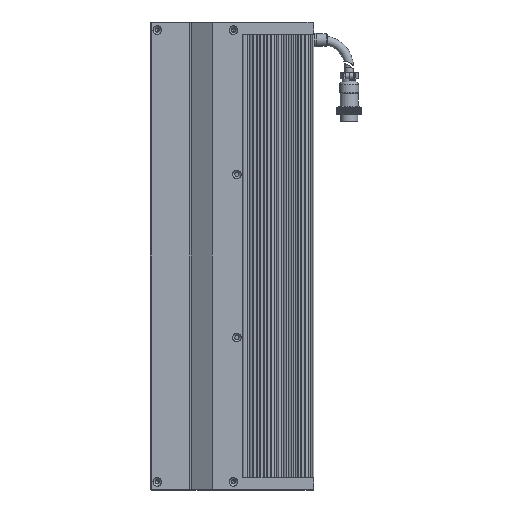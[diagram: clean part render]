
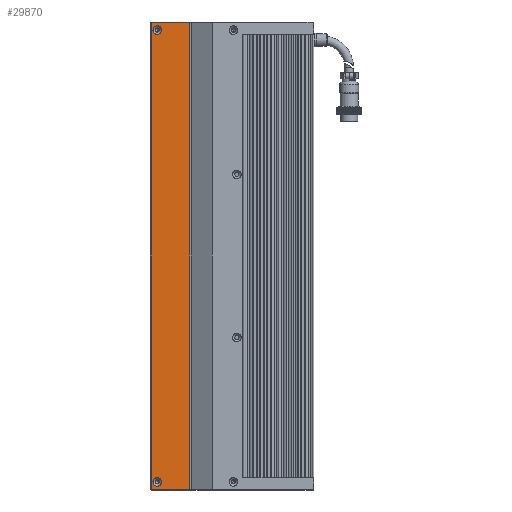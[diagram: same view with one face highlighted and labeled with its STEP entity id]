
A CAD part, left-side view. The second image highlights one B-rep face of the part: STEP entity #29870.
In plain terms, the highlighted planar face has unit normal (-1, 0, 0).
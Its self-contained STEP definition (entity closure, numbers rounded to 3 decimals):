
#281 = ORIENTED_EDGE ( 'NONE', *, *, #96069, .F. ) ;
#371 = AXIS2_PLACEMENT_3D ( 'NONE', #30398, #20269, #49448 ) ;
#2692 = DIRECTION ( 'NONE',  ( 0., 0., 1. ) ) ;
#3423 = EDGE_CURVE ( 'NONE', #51012, #51012, #91070, .T. ) ;
#3790 = VECTOR ( 'NONE', #110352, 1000. ) ;
#5175 = DIRECTION ( 'NONE',  ( 1., 0., 0. ) ) ;
#6665 = CARTESIAN_POINT ( 'NONE',  ( -15.462, 21.439, 463. ) ) ;
#6941 = LINE ( 'NONE', #79916, #41817 ) ;
#7898 = EDGE_CURVE ( 'NONE', #40399, #40399, #39347, .T. ) ;
#8772 = FACE_BOUND ( 'NONE', #119551, .T. ) ;
#10105 = AXIS2_PLACEMENT_3D ( 'NONE', #44052, #5175, #109949 ) ;
#10436 = ORIENTED_EDGE ( 'NONE', *, *, #26437, .F. ) ;
#13795 = CARTESIAN_POINT ( 'NONE',  ( -15.462, -6.987, 461.5 ) ) ;
#14948 = LINE ( 'NONE', #51786, #82863 ) ;
#20269 = DIRECTION ( 'NONE',  ( -1., 0., 0. ) ) ;
#20612 = VERTEX_POINT ( 'NONE', #91520 ) ;
#21435 = ORIENTED_EDGE ( 'NONE', *, *, #44242, .F. ) ;
#21868 = CARTESIAN_POINT ( 'NONE',  ( -15.462, -6.987, 463. ) ) ;
#24652 = VERTEX_POINT ( 'NONE', #78868 ) ;
#26437 = EDGE_CURVE ( 'NONE', #20612, #28474, #14948, .T. ) ;
#27771 = ORIENTED_EDGE ( 'NONE', *, *, #7898, .F. ) ;
#28474 = VERTEX_POINT ( 'NONE', #6665 ) ;
#29870 = ADVANCED_FACE ( 'NONE', ( #108550, #8772, #67731 ), #43635, .F. ) ;
#30398 = CARTESIAN_POINT ( 'NONE',  ( -15.462, 16.939, 457.5 ) ) ;
#32244 = ORIENTED_EDGE ( 'NONE', *, *, #3423, .F. ) ;
#39347 = CIRCLE ( 'NONE', #105823, 3.15 ) ;
#40399 = VERTEX_POINT ( 'NONE', #104734 ) ;
#41817 = VECTOR ( 'NONE', #50456, 1000. ) ;
#43635 = PLANE ( 'NONE',  #10105 ) ;
#43851 = EDGE_LOOP ( 'NONE', ( #10436, #100117, #21435, #281 ) ) ;
#44052 = CARTESIAN_POINT ( 'NONE',  ( -15.462, -7.561, 461.5 ) ) ;
#44242 = EDGE_CURVE ( 'NONE', #55103, #24652, #123701, .T. ) ;
#46148 = LINE ( 'NONE', #51362, #3790 ) ;
#47214 = EDGE_CURVE ( 'NONE', #24652, #20612, #6941, .T. ) ;
#47772 = CARTESIAN_POINT ( 'NONE',  ( -15.462, 13.789, 457.5 ) ) ;
#49448 = DIRECTION ( 'NONE',  ( 0., -1., 0. ) ) ;
#50456 = DIRECTION ( 'NONE',  ( 0., 1., 0. ) ) ;
#51012 = VERTEX_POINT ( 'NONE', #47772 ) ;
#51362 = CARTESIAN_POINT ( 'NONE',  ( -15.462, -7.561, 463. ) ) ;
#51786 = CARTESIAN_POINT ( 'NONE',  ( -15.462, 21.439, 461.5 ) ) ;
#53796 = EDGE_LOOP ( 'NONE', ( #27771 ) ) ;
#55103 = VERTEX_POINT ( 'NONE', #21868 ) ;
#59601 = DIRECTION ( 'NONE',  ( 0., 0., 1. ) ) ;
#60440 = CARTESIAN_POINT ( 'NONE',  ( -15.462, 16.939, 125.5 ) ) ;
#67731 = FACE_OUTER_BOUND ( 'NONE', #43851, .T. ) ;
#78868 = CARTESIAN_POINT ( 'NONE',  ( -15.462, -6.987, 120. ) ) ;
#79916 = CARTESIAN_POINT ( 'NONE',  ( -15.462, -7.561, 120. ) ) ;
#82863 = VECTOR ( 'NONE', #2692, 1000. ) ;
#88891 = VECTOR ( 'NONE', #110721, 1000. ) ;
#91070 = CIRCLE ( 'NONE', #371, 3.15 ) ;
#91520 = CARTESIAN_POINT ( 'NONE',  ( -15.462, 21.439, 120. ) ) ;
#96069 = EDGE_CURVE ( 'NONE', #28474, #55103, #46148, .T. ) ;
#100117 = ORIENTED_EDGE ( 'NONE', *, *, #47214, .F. ) ;
#104734 = CARTESIAN_POINT ( 'NONE',  ( -15.462, 16.939, 128.65 ) ) ;
#105823 = AXIS2_PLACEMENT_3D ( 'NONE', #60440, #107660, #59601 ) ;
#107660 = DIRECTION ( 'NONE',  ( -1., 0., 0. ) ) ;
#108550 = FACE_BOUND ( 'NONE', #53796, .T. ) ;
#109949 = DIRECTION ( 'NONE',  ( 0., 0., -1. ) ) ;
#110352 = DIRECTION ( 'NONE',  ( 0., -1., 0. ) ) ;
#110721 = DIRECTION ( 'NONE',  ( 0., 0., -1. ) ) ;
#119551 = EDGE_LOOP ( 'NONE', ( #32244 ) ) ;
#123701 = LINE ( 'NONE', #13795, #88891 ) ;
